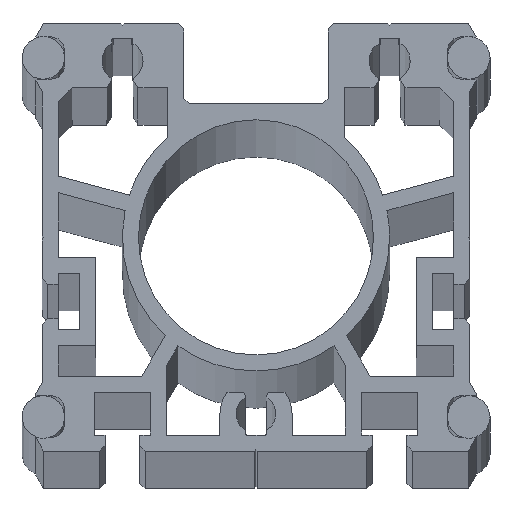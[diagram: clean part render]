
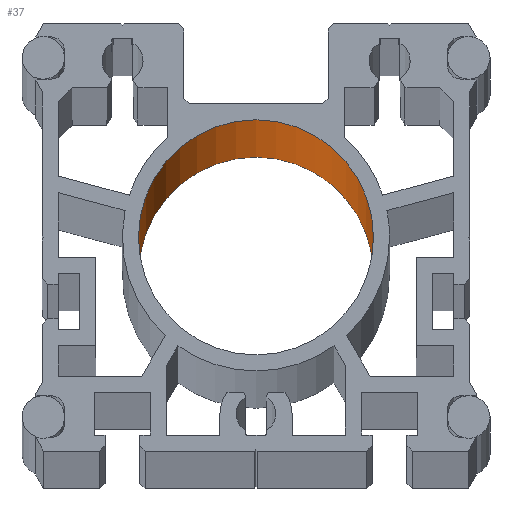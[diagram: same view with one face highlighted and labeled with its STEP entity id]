
A CAD part, top view. The second image highlights one B-rep face of the part: STEP entity #37.
In plain terms, the highlighted cylindrical face has radius 22 mm (diameter 44 mm), a partial arc.
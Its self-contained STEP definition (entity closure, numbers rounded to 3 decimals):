
#35 = EDGE_CURVE ( 'NONE', #1230, #1423, #3034, .T. ) ;
#37 = ADVANCED_FACE ( 'NONE', ( #3029 ), #3028, .F. ) ;
#38 = EDGE_LOOP ( 'NONE', ( #39, #40, #41, #42 ) ) ;
#39 = ORIENTED_EDGE ( 'NONE', *, *, #1422, .F. ) ;
#40 = ORIENTED_EDGE ( 'NONE', *, *, #3182, .F. ) ;
#41 = ORIENTED_EDGE ( 'NONE', *, *, #1232, .T. ) ;
#42 = ORIENTED_EDGE ( 'NONE', *, *, #35, .T. ) ;
#1230 = VERTEX_POINT ( 'NONE', #5362 ) ;
#1232 = EDGE_CURVE ( 'NONE', #1420, #1230, #5361, .T. ) ;
#1419 = VERTEX_POINT ( 'NONE', #5298 ) ;
#1420 = VERTEX_POINT ( 'NONE', #5297 ) ;
#1422 = EDGE_CURVE ( 'NONE', #1419, #1423, #5296, .T. ) ;
#1423 = VERTEX_POINT ( 'NONE', #5292 ) ;
#3023 = DIRECTION ( 'NONE',  ( 1., 0., 0. ) ) ;
#3024 = DIRECTION ( 'NONE',  ( 0., 0., 1. ) ) ;
#3025 = CARTESIAN_POINT ( 'NONE',  ( 0., 40., -1999. ) ) ;
#3026 = AXIS2_PLACEMENT_3D ( 'NONE', #3025, #3024, #3023 ) ;
#3028 = CYLINDRICAL_SURFACE ( 'NONE', #3026, 22. ) ;
#3029 = FACE_OUTER_BOUND ( 'NONE', #38, .T. ) ;
#3030 = DIRECTION ( 'NONE',  ( 1., 0., 0. ) ) ;
#3031 = DIRECTION ( 'NONE',  ( 0., 0., 1. ) ) ;
#3032 = CARTESIAN_POINT ( 'NONE',  ( 0., 40., 1999. ) ) ;
#3033 = AXIS2_PLACEMENT_3D ( 'NONE', #3032, #3031, #3030 ) ;
#3034 = CIRCLE ( 'NONE', #3033, 22. ) ;
#3182 = EDGE_CURVE ( 'NONE', #1420, #1419, #7899, .T. ) ;
#5292 = CARTESIAN_POINT ( 'NONE',  ( -22., 40., 1999. ) ) ;
#5293 = DIRECTION ( 'NONE',  ( 0., 0., 1. ) ) ;
#5294 = VECTOR ( 'NONE', #5293, 1000. ) ;
#5295 = CARTESIAN_POINT ( 'NONE',  ( -22., 40., -1999. ) ) ;
#5296 = LINE ( 'NONE', #5295, #5294 ) ;
#5297 = CARTESIAN_POINT ( 'NONE',  ( 22., 40., -1999. ) ) ;
#5298 = CARTESIAN_POINT ( 'NONE',  ( -22., 40., -1999. ) ) ;
#5358 = DIRECTION ( 'NONE',  ( 0., 0., 1. ) ) ;
#5359 = VECTOR ( 'NONE', #5358, 1000. ) ;
#5360 = CARTESIAN_POINT ( 'NONE',  ( 22., 40., -1999. ) ) ;
#5361 = LINE ( 'NONE', #5360, #5359 ) ;
#5362 = CARTESIAN_POINT ( 'NONE',  ( 22., 40., 1999. ) ) ;
#7895 = DIRECTION ( 'NONE',  ( 1., 0., 0. ) ) ;
#7896 = DIRECTION ( 'NONE',  ( 0., 0., 1. ) ) ;
#7897 = CARTESIAN_POINT ( 'NONE',  ( 0., 40., -1999. ) ) ;
#7898 = AXIS2_PLACEMENT_3D ( 'NONE', #7897, #7896, #7895 ) ;
#7899 = CIRCLE ( 'NONE', #7898, 22. ) ;
